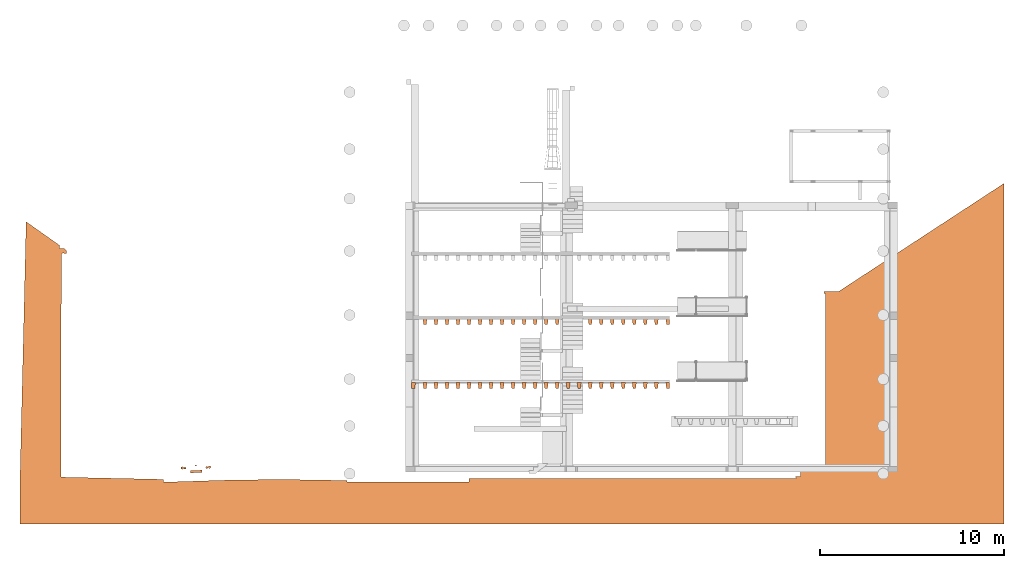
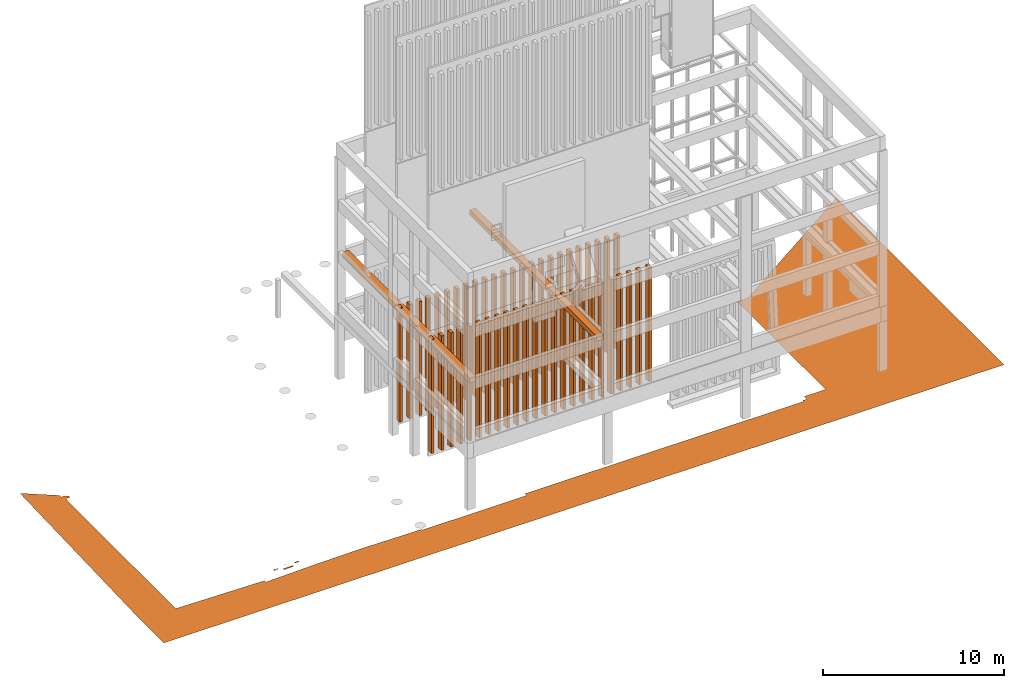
# One storey, part 12 of 15: 3 proxies.
"""IFC2X3 building model written with IfcOpenShell, lengths in metres."""

from ifc_helpers import new_model, entity, si_unit, converted_unit, derived_unit, money_unit, direction, frame, origin_with_axes, place, context, subcontext, project, spatial, open_shell, faceted_brep, surface_model, element, save


model = new_model("IFC2X3")

# Units and contexts
model_context = context("Model", 3, precision=1e-05, world=origin_with_axes(), true_north=direction((0.0, 1.0)))
body_context = subcontext(model_context, "Body", "Model", "MODEL_VIEW", scale=1.0)
ifc_project = project(units=[si_unit("LENGTHUNIT", "METRE"), si_unit("AREAUNIT", "SQUARE_METRE"), si_unit("VOLUMEUNIT", "CUBIC_METRE"), si_unit("ABSORBEDDOSEUNIT", "GRAY"), si_unit("AMOUNTOFSUBSTANCEUNIT", "MOLE"), si_unit("DOSEEQUIVALENTUNIT", "SIEVERT"), si_unit("ELECTRICCAPACITANCEUNIT", "FARAD"), si_unit("ELECTRICCHARGEUNIT", "COULOMB"), si_unit("ELECTRICCONDUCTANCEUNIT", "SIEMENS"), si_unit("ELECTRICCURRENTUNIT", "AMPERE"), si_unit("ELECTRICRESISTANCEUNIT", "OHM"), si_unit("ELECTRICVOLTAGEUNIT", "VOLT"), si_unit("ENERGYUNIT", "JOULE"), si_unit("FORCEUNIT", "NEWTON"), si_unit("FREQUENCYUNIT", "HERTZ"), si_unit("ILLUMINANCEUNIT", "LUX"), si_unit("INDUCTANCEUNIT", "HENRY"), si_unit("LUMINOUSFLUXUNIT", "LUMEN"), si_unit("LUMINOUSINTENSITYUNIT", "CANDELA"), si_unit("MAGNETICFLUXDENSITYUNIT", "TESLA"), si_unit("MAGNETICFLUXUNIT", "WEBER"), si_unit("MASSUNIT", "GRAM"), converted_unit("PLANEANGLEUNIT", "degree", entity("IfcReal", 0.0174532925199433), si_unit("PLANEANGLEUNIT", "RADIAN"), dimensions=[0, 0, 0, 0, 0, 0, 0]), si_unit("POWERUNIT", "WATT"), si_unit("PRESSUREUNIT", "PASCAL"), si_unit("RADIOACTIVITYUNIT", "BECQUEREL"), si_unit("SOLIDANGLEUNIT", "STERADIAN"), si_unit("THERMODYNAMICTEMPERATUREUNIT", "KELVIN"), si_unit("TIMEUNIT", "SECOND"), derived_unit("ACCELERATIONUNIT", [(si_unit("LENGTHUNIT", "METRE"), 1), (si_unit("TIMEUNIT", "SECOND"), -2)]), derived_unit("ANGULARVELOCITYUNIT", [(converted_unit("PLANEANGLEUNIT", "degree", entity("IfcReal", 0.0174532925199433), si_unit("PLANEANGLEUNIT", "RADIAN"), dimensions=[0, 0, 0, 0, 0, 0, 0]), 1), (si_unit("TIMEUNIT", "SECOND"), -1)]), derived_unit("CURVATUREUNIT", [(converted_unit("PLANEANGLEUNIT", "degree", entity("IfcReal", 0.0174532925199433), si_unit("PLANEANGLEUNIT", "RADIAN"), dimensions=[0, 0, 0, 0, 0, 0, 0]), 1), (si_unit("LENGTHUNIT", "METRE"), -1)]), derived_unit("DYNAMICVISCOSITYUNIT", [(si_unit("PRESSUREUNIT", "PASCAL"), 1), (si_unit("TIMEUNIT", "SECOND"), 1)]), derived_unit("HEATFLUXDENSITYUNIT", [(si_unit("POWERUNIT", "WATT"), 1), (si_unit("LENGTHUNIT", "METRE"), -2)]), derived_unit("HEATINGVALUEUNIT", [(si_unit("ENERGYUNIT", "JOULE"), 1), (si_unit("MASSUNIT", "GRAM"), -1)]), derived_unit("INTEGERCOUNTRATEUNIT", [(si_unit("TIMEUNIT", "SECOND"), -1)]), derived_unit("IONCONCENTRATIONUNIT", [(si_unit("MASSUNIT", "GRAM"), 1), (si_unit("VOLUMEUNIT", "CUBIC_METRE"), -1)]), derived_unit("ISOTHERMALMOISTURECAPACITYUNIT", [(si_unit("VOLUMEUNIT", "CUBIC_METRE"), 1), (si_unit("MASSUNIT", "GRAM"), -1)]), derived_unit("KINEMATICVISCOSITYUNIT", [(si_unit("AREAUNIT", "SQUARE_METRE"), 1), (si_unit("TIMEUNIT", "SECOND"), -1)]), derived_unit("LINEARFORCEUNIT", [(si_unit("FORCEUNIT", "NEWTON"), 1), (si_unit("LENGTHUNIT", "METRE"), -1)]), derived_unit("LINEARMOMENTUNIT", [(si_unit("FORCEUNIT", "NEWTON"), 1), (si_unit("LENGTHUNIT", "METRE"), -1)]), derived_unit("LINEARSTIFFNESSUNIT", [(si_unit("FORCEUNIT", "NEWTON"), 1), (si_unit("LENGTHUNIT", "METRE"), -1)]), derived_unit("LINEARVELOCITYUNIT", [(si_unit("LENGTHUNIT", "METRE"), 1), (si_unit("TIMEUNIT", "SECOND"), -1)]), derived_unit("LUMINOUSINTENSITYDISTRIBUTIONUNIT", [(si_unit("LUMINOUSINTENSITYUNIT", "CANDELA"), 1), (si_unit("LUMINOUSFLUXUNIT", "LUMEN"), -1)]), derived_unit("MASSDENSITYUNIT", [(si_unit("MASSUNIT", "GRAM"), 1), (si_unit("VOLUMEUNIT", "CUBIC_METRE"), -1)]), derived_unit("MASSFLOWRATEUNIT", [(si_unit("MASSUNIT", "GRAM"), 1), (si_unit("TIMEUNIT", "SECOND"), -1)]), derived_unit("MASSPERLENGTHUNIT", [(si_unit("MASSUNIT", "GRAM"), 1), (si_unit("LENGTHUNIT", "METRE"), -1)]), derived_unit("MODULUSOFELASTICITYUNIT", [(si_unit("FORCEUNIT", "NEWTON"), 1), (si_unit("AREAUNIT", "SQUARE_METRE"), -1)]), derived_unit("MODULUSOFLINEARSUBGRADEREACTIONUNIT", [(si_unit("FORCEUNIT", "NEWTON"), 1), (si_unit("LENGTHUNIT", "METRE"), -2)]), derived_unit("MODULUSOFROTATIONALSUBGRADEREACTIONUNIT", [(si_unit("FORCEUNIT", "NEWTON"), 1), (si_unit("LENGTHUNIT", "METRE"), 1)]), derived_unit("MODULUSOFSUBGRADEREACTIONUNIT", [(si_unit("FORCEUNIT", "NEWTON"), 1), (si_unit("VOLUMEUNIT", "CUBIC_METRE"), -1)]), derived_unit("MOISTUREDIFFUSIVITYUNIT", [(si_unit("VOLUMEUNIT", "CUBIC_METRE"), 1), (si_unit("TIMEUNIT", "SECOND"), -1)]), derived_unit("MOLECULARWEIGHTUNIT", [(si_unit("MASSUNIT", "GRAM"), 1), (si_unit("AMOUNTOFSUBSTANCEUNIT", "MOLE"), -1)]), derived_unit("PLANARFORCEUNIT", [(si_unit("FORCEUNIT", "NEWTON"), 1), (si_unit("LENGTHUNIT", "METRE"), -2)]), derived_unit("ROTATIONALFREQUENCYUNIT", [(si_unit("TIMEUNIT", "SECOND"), -1)]), derived_unit("ROTATIONALMASSUNIT", [(si_unit("MASSUNIT", "GRAM"), 1), (si_unit("LENGTHUNIT", "METRE"), 2)]), derived_unit("ROTATIONALSTIFFNESSUNIT", [(si_unit("FORCEUNIT", "NEWTON"), 1), (si_unit("LENGTHUNIT", "METRE"), 1), (converted_unit("PLANEANGLEUNIT", "degree", entity("IfcReal", 0.0174532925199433), si_unit("PLANEANGLEUNIT", "RADIAN"), dimensions=[0, 0, 0, 0, 0, 0, 0]), -1)]), derived_unit("SECTIONAREAINTEGRALUNIT", [(si_unit("LENGTHUNIT", "METRE"), 5)]), derived_unit("SECTIONMODULUSUNIT", [(si_unit("LENGTHUNIT", "METRE"), 3)]), derived_unit("SHEARMODULUSUNIT", [(si_unit("FORCEUNIT", "NEWTON"), 1), (si_unit("AREAUNIT", "SQUARE_METRE"), -1)]), derived_unit("SOUNDPOWERUNIT", [(si_unit("ENERGYUNIT", "JOULE"), 1), (si_unit("TIMEUNIT", "SECOND"), -1)]), derived_unit("SPECIFICHEATCAPACITYUNIT", [(si_unit("FORCEUNIT", "NEWTON"), 1), (si_unit("MASSUNIT", "GRAM"), -1), (si_unit("THERMODYNAMICTEMPERATUREUNIT", "KELVIN"), -1)]), derived_unit("TEMPERATUREGRADIENTUNIT", [(si_unit("THERMODYNAMICTEMPERATUREUNIT", "KELVIN"), 1), (si_unit("LENGTHUNIT", "METRE"), -1)]), derived_unit("THERMALADMITTANCEUNIT", [(si_unit("POWERUNIT", "WATT"), 1), (si_unit("AREAUNIT", "SQUARE_METRE"), -1), (si_unit("THERMODYNAMICTEMPERATUREUNIT", "KELVIN"), -1)]), derived_unit("THERMALCONDUCTANCEUNIT", [(si_unit("POWERUNIT", "WATT"), 1), (si_unit("LENGTHUNIT", "METRE"), -1), (si_unit("THERMODYNAMICTEMPERATUREUNIT", "KELVIN"), -1)]), derived_unit("THERMALEXPANSIONCOEFFICIENTUNIT", [(si_unit("THERMODYNAMICTEMPERATUREUNIT", "KELVIN"), -1)]), derived_unit("THERMALRESISTANCEUNIT", [(si_unit("AREAUNIT", "SQUARE_METRE"), 1), (si_unit("POWERUNIT", "WATT"), -1)]), derived_unit("THERMALTRANSMITTANCEUNIT", [(si_unit("POWERUNIT", "WATT"), 1), (si_unit("AREAUNIT", "SQUARE_METRE"), -1), (si_unit("THERMODYNAMICTEMPERATUREUNIT", "KELVIN"), -1)]), derived_unit("TORQUEUNIT", [(si_unit("FORCEUNIT", "NEWTON"), 1), (si_unit("LENGTHUNIT", "METRE"), 1)]), derived_unit("VAPORPERMEABILITYUNIT", [(si_unit("MASSUNIT", "GRAM"), 1), (si_unit("TIMEUNIT", "SECOND"), -1)]), derived_unit("VOLUMETRICFLOWRATEUNIT", [(si_unit("VOLUMEUNIT", "CUBIC_METRE"), 1), (si_unit("TIMEUNIT", "SECOND"), -1)]), derived_unit("WARPINGCONSTANTUNIT", [(si_unit("LENGTHUNIT", "METRE"), 6)]), derived_unit("WARPINGMOMENTUNIT", [(si_unit("FORCEUNIT", "NEWTON"), 1), (si_unit("LENGTHUNIT", "METRE"), 2)]), money_unit("GBP")], contexts=[model_context])

# Site, building, storey
site_placement = place(None, origin_with_axes())
site = spatial("IfcSite", under=ifc_project, at=site_placement, Name="Site", CompositionType="ELEMENT")
building_placement = place(site_placement, origin_with_axes())
building = spatial("IfcBuilding", under=site, at=building_placement, Name="Building01", CompositionType="ELEMENT")
storey_placement = place(building_placement, origin_with_axes())
storey = spatial("IfcBuildingStorey", under=building, at=storey_placement, Name="GF", CompositionType="ELEMENT", Elevation=0.0)

# Proxies
proxy_1_placement = place(storey_placement, frame((6.295265, 6.775269, 0.0), z_axis=(0.0, 0.0, 1.0), x_axis=(1.0, 0.0, 0.0)))
element("IfcBuildingElementProxy", 1, at=proxy_1_placement, inside=storey, context=body_context, shape_type="SurfaceModel", body=[
    surface_model("IfcShellBasedSurfaceModel", [(-9.384389, -7.220269, 0.0), (-2.736119, -7.220269, 0.0), (-2.735932, -7.027269, 0.0), (-2.736011, -7.027269, 0.0), (6.158579, -7.027269, 0.0), (15.053168, -7.027269, 0.0), (15.042496, -6.920269, 0.0), (15.317986, -6.920269, 0.0), (15.317986, -6.627269, 0.0), (16.667986, -6.627269, 0.0), (16.667986, 2.472732, 0.0), (16.667986, 3.050256, 0.0), (16.597704, 3.050256, 0.0), (16.597704, 3.138353, 0.0), (17.368059, 3.138353, 0.0), (26.392331, 9.036535, 0.0), (26.392331, -9.500924, 0.0), (-27.203092, -9.500924, 0.0), (-27.203092, -7.157924, 0.0), (-26.868161, 6.947285, 0.0), (-25.062395, 5.672285, 0.0), (-25.063699, 5.497285, 0.0), (-24.812561, 5.497974, 0.0), (-24.666033, 5.362285, 0.0), (-24.665296, 5.222285, 0.0), (-24.879935, 5.237285, 0.0), (-24.953249, 5.157285, 0.0), (-24.967124, -6.962976, 0.0), (-19.384061, -7.084757, 0.0), (-19.382847, -7.23741, 0.0), (-16.044539, -7.130372, 0.0), (-13.692327, -7.096132, 0.0), (-12.934311, -7.088553, 0.0), (-11.352533, -7.113553, 0.0), (-9.385255, -7.145523, 0.0), (-9.384389, -7.157924, 0.0), (-17.643515, -6.3046, 0.0), (-17.657405, -6.311271, 0.0), (-17.665073, -6.320519, 0.0), (-17.666045, -6.32594, 0.0), (-17.625325, -6.324558, 0.0), (-17.626098, -6.301799, 0.0), (-17.607136, -6.344515, 0.0), (-17.593246, -6.337844, 0.0), (-17.585578, -6.328596, 0.0), (-17.584606, -6.323176, 0.0), (-17.624553, -6.347316, 0.0), (-17.661765, -6.335582, 0.0), (-17.650417, -6.343086, 0.0), (-17.634203, -6.346997, 0.0), (-17.616268, -6.346556, 0.0), (-17.600089, -6.341848, 0.0), (-17.588804, -6.333787, 0.0), (-17.584602, -6.323936, 0.0), (-17.588299, -6.314206, 0.0), (-17.599176, -6.306483, 0.0), (-17.615125, -6.302265, 0.0), (-17.633052, -6.302371, 0.0), (-17.649481, -6.30678, 0.0), (-17.661224, -6.314636, 0.0), (-17.666006, -6.324417, 0.0), (-16.993731, -6.413525, 0.0), (-17.003932, -6.400441, 0.0), (-17.018573, -6.392638, 0.0), (-17.035122, -6.391465, 0.0), (-17.050717, -6.397124, 0.0), (-17.062662, -6.408636, 0.0), (-17.068892, -6.424013, 0.0), (-17.06833, -6.440594, 0.0), (-17.061072, -6.455512, 0.0), (-17.048373, -6.466189, 0.0), (-17.03243, -6.470777, 0.0), (-17.015999, -6.468484, 0.0), (-17.001921, -6.459707, 0.0), (-16.99263, -6.445962, 0.0), (-16.989733, -6.429626, 0.0), (-16.974725, -6.408868, 0.0), (-16.985597, -6.39143, 0.0), (-17.001778, -6.378763, 0.0), (-17.021315, -6.372393, 0.0), (-17.041853, -6.373091, 0.0), (-17.060914, -6.38077, 0.0), (-17.076198, -6.394505, 0.0), (-17.085864, -6.41264, 0.0), (-17.088743, -6.432986, 0.0), (-17.084491, -6.453091, 0.0), (-17.073618, -6.470529, 0.0), (-17.057437, -6.483196, 0.0), (-17.0379, -6.489565, 0.0), (-17.017362, -6.488868, 0.0), (-16.998302, -6.481189, 0.0), (-16.983017, -6.467454, 0.0), (-16.973352, -6.449319, 0.0), (-16.970472, -6.428972, 0.0), (-16.838745, -6.39588, 0.0), (-16.849571, -6.381996, 0.0), (-16.865107, -6.373715, 0.0), (-16.882669, -6.37247, 0.0), (-16.899219, -6.378475, 0.0), (-16.911895, -6.390692, 0.0), (-16.918506, -6.40701, 0.0), (-16.917909, -6.424605, 0.0), (-16.910207, -6.440437, 0.0), (-16.896731, -6.451767, 0.0), (-16.879812, -6.456636, 0.0), (-16.862376, -6.454203, 0.0), (-16.847436, -6.444888, 0.0), (-16.837577, -6.430302, 0.0), (-16.834503, -6.412967, 0.0), (-16.811549, -6.38949, 0.0), (-16.823174, -6.369648, 0.0), (-16.840613, -6.354655, 0.0), (-16.861975, -6.346136, 0.0), (-16.884945, -6.345016, 0.0), (-16.907035, -6.351414, 0.0), (-16.92585, -6.364638, 0.0), (-16.939351, -6.383255, 0.0), (-16.946077, -6.405248, 0.0), (-16.945297, -6.428232, 0.0), (-16.937096, -6.449718, 0.0), (-16.922363, -6.467377, 0.0), (-16.902694, -6.479295, 0.0), (-16.880222, -6.484181, 0.0), (-16.85738, -6.481506, 0.0), (-16.836645, -6.471559, 0.0), (-16.820263, -6.455418, 0.0), (-16.81001, -6.434832, 0.0), (-16.806996, -6.412033, 0.0), (-18.17658, -6.453669, 0.0), (-18.186781, -6.440586, 0.0), (-18.201422, -6.432783, 0.0), (-18.217971, -6.431609, 0.0), (-18.233566, -6.437268, 0.0), (-18.245512, -6.448781, 0.0), (-18.251742, -6.464158, 0.0), (-18.251179, -6.480738, 0.0), (-18.243921, -6.495657, 0.0), (-18.231222, -6.506333, 0.0), (-18.215279, -6.510922, 0.0), (-18.198848, -6.508629, 0.0), (-18.18477, -6.499851, 0.0), (-18.175479, -6.486106, 0.0), (-18.172582, -6.469771, 0.0), (-18.157574, -6.449013, 0.0), (-18.168446, -6.431575, 0.0), (-18.184627, -6.418908, 0.0), (-18.204165, -6.412538, 0.0), (-18.224702, -6.413235, 0.0), (-18.243763, -6.420915, 0.0), (-18.259048, -6.43465, 0.0), (-18.268713, -6.452785, 0.0), (-18.271593, -6.473131, 0.0), (-18.26734, -6.493236, 0.0), (-18.256468, -6.510674, 0.0), (-18.240287, -6.523341, 0.0), (-18.220749, -6.52971, 0.0), (-18.200212, -6.529013, 0.0), (-18.181151, -6.521334, 0.0), (-18.165866, -6.507599, 0.0), (-18.156201, -6.489464, 0.0), (-18.153321, -6.469117, 0.0), (-18.327947, -6.446422, 0.0), (-18.338772, -6.432538, 0.0), (-18.354309, -6.424257, 0.0), (-18.371871, -6.423012, 0.0), (-18.388421, -6.429017, 0.0), (-18.401097, -6.441235, 0.0), (-18.407708, -6.457552, 0.0), (-18.407111, -6.475147, 0.0), (-18.399409, -6.490979, 0.0), (-18.385933, -6.502309, 0.0), (-18.369014, -6.507178, 0.0), (-18.351578, -6.504745, 0.0), (-18.336638, -6.49543, 0.0), (-18.326779, -6.480844, 0.0), (-18.323705, -6.463509, 0.0), (-18.300751, -6.440033, 0.0), (-18.312376, -6.42019, 0.0), (-18.329815, -6.405197, 0.0), (-18.351177, -6.396678, 0.0), (-18.374147, -6.395558, 0.0), (-18.396236, -6.401956, 0.0), (-18.415052, -6.415181, 0.0), (-18.428553, -6.433798, 0.0), (-18.435279, -6.45579, 0.0), (-18.434499, -6.478774, 0.0), (-18.426298, -6.50026, 0.0), (-18.411565, -6.517919, 0.0), (-18.391896, -6.529837, 0.0), (-18.369424, -6.534723, 0.0), (-18.346582, -6.532048, 0.0), (-18.325847, -6.522101, 0.0), (-18.309465, -6.50596, 0.0), (-18.299212, -6.485375, 0.0), (-18.296198, -6.462575, 0.0), (-17.918557, -6.728555, 0.0), (-17.29906, -6.707529, 0.0), (-17.303283, -6.583092, 0.0), (-17.922781, -6.604118, 0.0)], [open_shell([[[0, 1, 2, 3, 2, 4, 5, 6, 7, 8, 9, 10, 11, 12, 13, 14, 15, 16, 17, 18, 19, 20, 21, 22, 23, 24, 25, 26, 27, 28, 29, 30, 31, 32, 33, 34, 35]], [[36, 37, 38, 39, 40, 41]], [[42, 43, 44, 45, 40, 46]], [[47, 48, 49, 50, 51, 52, 53, 54, 55, 56, 57, 58, 59, 60, 39]], [[61, 62, 63, 64, 65, 66, 67, 68, 69, 70, 71, 72, 73, 74, 75]], [[76, 77, 78, 79, 80, 81, 82, 83, 84, 85, 86, 87, 88, 89, 90, 91, 92, 93]], [[94, 95, 96, 97, 98, 99, 100, 101, 102, 103, 104, 105, 106, 107, 108]], [[109, 110, 111, 112, 113, 114, 115, 116, 117, 118, 119, 120, 121, 122, 123, 124, 125, 126, 127]], [[128, 129, 130, 131, 132, 133, 134, 135, 136, 137, 138, 139, 140, 141, 142]], [[143, 144, 145, 146, 147, 148, 149, 150, 151, 152, 153, 154, 155, 156, 157, 158, 159, 160]], [[161, 162, 163, 164, 165, 166, 167, 168, 169, 170, 171, 172, 173, 174, 175]], [[176, 177, 178, 179, 180, 181, 182, 183, 184, 185, 186, 187, 188, 189, 190, 191, 192, 193, 194]], [[195, 196, 197, 198]]])]),
])
proxy_2_placement = place(storey_placement, frame((7.45, 8.3, 4.6725), z_axis=(0.0, 1.0, 0.0), x_axis=(0.0, 0.0, 1.0)))
element("IfcBuildingElementProxy", 2, at=proxy_2_placement, inside=storey, context=body_context, shape_type="Brep", body=[
    faceted_brep([(3.4575, -6.63, 6.18), (3.4575, -6.63, -7.88), (3.4575, -7.03, -7.88), (3.4575, -7.03, 6.18), (3.7975, -6.63, 6.18), (3.7975, -6.63, -7.88), (3.7975, -7.03, 6.18), (3.7975, -7.03, -7.88)], [[[0, 1, 2, 3]], [[4, 5, 1, 0]], [[6, 7, 5, 4]], [[3, 2, 7, 6]], [[1, 5, 7, 2]], [[3, 6, 4, 0]]]),
    faceted_brep([(-3.8525, -7.03, -0.17), (3.8525, -7.03, -0.17), (3.8525, -7.03, 0.17), (-3.8525, -7.03, 0.17), (-3.8525, -6.858571, -0.17), (3.8525, -6.858571, -0.17), (-3.8525, -6.81, 0.17), (3.8525, -6.81, 0.17)], [[[0, 1, 2, 3]], [[4, 5, 1, 0]], [[6, 7, 5, 4]], [[3, 2, 7, 6]], [[1, 5, 7, 2]], [[3, 6, 4, 0]]]),
    faceted_brep([(-3.8525, 7.03, 0.17), (3.8525, 7.03, 0.17), (3.8525, 7.03, -0.17), (-3.8525, 7.03, -0.17), (-3.8525, 6.81, 0.17), (3.8525, 6.81, 0.17), (-3.8525, 6.858572, -0.17), (3.8525, 6.858572, -0.17)], [[[0, 1, 2, 3]], [[4, 5, 1, 0]], [[6, 7, 5, 4]], [[3, 2, 7, 6]], [[1, 5, 7, 2]], [[3, 6, 4, 0]]]),
    faceted_brep([(-3.8525, 5.028572, -0.17), (3.8525, 5.028572, -0.17), (3.8525, 4.98, 0.17), (-3.8525, 4.98, 0.17), (-3.8525, 5.171429, -0.17), (3.8525, 5.171429, -0.17), (-3.8525, 5.22, 0.17), (3.8525, 5.22, 0.17)], [[[0, 1, 2, 3]], [[4, 5, 1, 0]], [[6, 7, 5, 4]], [[3, 2, 7, 6]], [[1, 5, 7, 2]], [[3, 6, 4, 0]]]),
    faceted_brep([(-3.8525, 4.428572, -0.17), (3.8525, 4.428572, -0.17), (3.8525, 4.38, 0.17), (-3.8525, 4.38, 0.17), (-3.8525, 4.571429, -0.17), (3.8525, 4.571429, -0.17), (-3.8525, 4.62, 0.17), (3.8525, 4.62, 0.17)], [[[0, 1, 2, 3]], [[4, 5, 1, 0]], [[6, 7, 5, 4]], [[3, 2, 7, 6]], [[1, 5, 7, 2]], [[3, 6, 4, 0]]]),
    faceted_brep([(-3.8525, 6.228572, -0.17), (3.8525, 6.228572, -0.17), (3.8525, 6.18, 0.17), (-3.8525, 6.18, 0.17), (-3.8525, 6.371429, -0.17), (3.8525, 6.371429, -0.17), (-3.8525, 6.42, 0.17), (3.8525, 6.42, 0.17)], [[[0, 1, 2, 3]], [[4, 5, 1, 0]], [[6, 7, 5, 4]], [[3, 2, 7, 6]], [[1, 5, 7, 2]], [[3, 6, 4, 0]]]),
    faceted_brep([(-3.8525, 5.628572, -0.17), (3.8525, 5.628572, -0.17), (3.8525, 5.58, 0.17), (-3.8525, 5.58, 0.17), (-3.8525, 5.771429, -0.17), (3.8525, 5.771429, -0.17), (-3.8525, 5.82, 0.17), (3.8525, 5.82, 0.17)], [[[0, 1, 2, 3]], [[4, 5, 1, 0]], [[6, 7, 5, 4]], [[3, 2, 7, 6]], [[1, 5, 7, 2]], [[3, 6, 4, 0]]]),
    faceted_brep([(-3.8525, 3.228572, -0.17), (3.8525, 3.228572, -0.17), (3.8525, 3.18, 0.17), (-3.8525, 3.18, 0.17), (-3.8525, 3.371429, -0.17), (3.8525, 3.371429, -0.17), (-3.8525, 3.42, 0.17), (3.8525, 3.42, 0.17)], [[[0, 1, 2, 3]], [[4, 5, 1, 0]], [[6, 7, 5, 4]], [[3, 2, 7, 6]], [[1, 5, 7, 2]], [[3, 6, 4, 0]]]),
    faceted_brep([(-3.8525, 2.628572, -0.17), (3.8525, 2.628572, -0.17), (3.8525, 2.58, 0.17), (-3.8525, 2.58, 0.17), (-3.8525, 2.771429, -0.17), (3.8525, 2.771429, -0.17), (-3.8525, 2.82, 0.17), (3.8525, 2.82, 0.17)], [[[0, 1, 2, 3]], [[4, 5, 1, 0]], [[6, 7, 5, 4]], [[3, 2, 7, 6]], [[1, 5, 7, 2]], [[3, 6, 4, 0]]]),
    faceted_brep([(-3.8525, 3.828572, -0.17), (3.8525, 3.828572, -0.17), (3.8525, 3.78, 0.17), (-3.8525, 3.78, 0.17), (-3.8525, 3.971429, -0.17), (3.8525, 3.971429, -0.17), (-3.8525, 4.02, 0.17), (3.8525, 4.02, 0.17)], [[[0, 1, 2, 3]], [[4, 5, 1, 0]], [[6, 7, 5, 4]], [[3, 2, 7, 6]], [[1, 5, 7, 2]], [[3, 6, 4, 0]]]),
    faceted_brep([(-3.8525, 1.428572, -0.17), (3.8525, 1.428572, -0.17), (3.8525, 1.38, 0.17), (-3.8525, 1.38, 0.17), (-3.8525, 1.571429, -0.17), (3.8525, 1.571429, -0.17), (-3.8525, 1.62, 0.17), (3.8525, 1.62, 0.17)], [[[0, 1, 2, 3]], [[4, 5, 1, 0]], [[6, 7, 5, 4]], [[3, 2, 7, 6]], [[1, 5, 7, 2]], [[3, 6, 4, 0]]]),
    faceted_brep([(-3.8525, 0.828572, -0.17), (3.8525, 0.828572, -0.17), (3.8525, 0.78, 0.17), (-3.8525, 0.78, 0.17), (-3.8525, 0.971429, -0.17), (3.8525, 0.971429, -0.17), (-3.8525, 1.02, 0.17), (3.8525, 1.02, 0.17)], [[[0, 1, 2, 3]], [[4, 5, 1, 0]], [[6, 7, 5, 4]], [[3, 2, 7, 6]], [[1, 5, 7, 2]], [[3, 6, 4, 0]]]),
    faceted_brep([(-3.8525, 2.028572, -0.17), (3.8525, 2.028572, -0.17), (3.8525, 1.98, 0.17), (-3.8525, 1.98, 0.17), (-3.8525, 2.171429, -0.17), (3.8525, 2.171429, -0.17), (-3.8525, 2.22, 0.17), (3.8525, 2.22, 0.17)], [[[0, 1, 2, 3]], [[4, 5, 1, 0]], [[6, 7, 5, 4]], [[3, 2, 7, 6]], [[1, 5, 7, 2]], [[3, 6, 4, 0]]]),
    faceted_brep([(-3.8525, -0.371428, -0.17), (3.8525, -0.371428, -0.17), (3.8525, -0.42, 0.17), (-3.8525, -0.42, 0.17), (-3.8525, -0.228571, -0.17), (3.8525, -0.228571, -0.17), (-3.8525, -0.18, 0.17), (3.8525, -0.18, 0.17)], [[[0, 1, 2, 3]], [[4, 5, 1, 0]], [[6, 7, 5, 4]], [[3, 2, 7, 6]], [[1, 5, 7, 2]], [[3, 6, 4, 0]]]),
    faceted_brep([(-3.8525, -0.971428, -0.17), (3.8525, -0.971428, -0.17), (3.8525, -1.02, 0.17), (-3.8525, -1.02, 0.17), (-3.8525, -0.828571, -0.17), (3.8525, -0.828571, -0.17), (-3.8525, -0.78, 0.17), (3.8525, -0.78, 0.17)], [[[0, 1, 2, 3]], [[4, 5, 1, 0]], [[6, 7, 5, 4]], [[3, 2, 7, 6]], [[1, 5, 7, 2]], [[3, 6, 4, 0]]]),
    faceted_brep([(-3.8525, 0.228572, -0.17), (3.8525, 0.228572, -0.17), (3.8525, 0.18, 0.17), (-3.8525, 0.18, 0.17), (-3.8525, 0.371429, -0.17), (3.8525, 0.371429, -0.17), (-3.8525, 0.42, 0.17), (3.8525, 0.42, 0.17)], [[[0, 1, 2, 3]], [[4, 5, 1, 0]], [[6, 7, 5, 4]], [[3, 2, 7, 6]], [[1, 5, 7, 2]], [[3, 6, 4, 0]]]),
    faceted_brep([(-3.8525, -2.171428, -0.17), (3.8525, -2.171428, -0.17), (3.8525, -2.22, 0.17), (-3.8525, -2.22, 0.17), (-3.8525, -2.028571, -0.17), (3.8525, -2.028571, -0.17), (-3.8525, -1.98, 0.17), (3.8525, -1.98, 0.17)], [[[0, 1, 2, 3]], [[4, 5, 1, 0]], [[6, 7, 5, 4]], [[3, 2, 7, 6]], [[1, 5, 7, 2]], [[3, 6, 4, 0]]]),
    faceted_brep([(-3.8525, -2.771428, -0.17), (3.8525, -2.771428, -0.17), (3.8525, -2.82, 0.17), (-3.8525, -2.82, 0.17), (-3.8525, -2.628571, -0.17), (3.8525, -2.628571, -0.17), (-3.8525, -2.58, 0.17), (3.8525, -2.58, 0.17)], [[[0, 1, 2, 3]], [[4, 5, 1, 0]], [[6, 7, 5, 4]], [[3, 2, 7, 6]], [[1, 5, 7, 2]], [[3, 6, 4, 0]]]),
    faceted_brep([(-3.8525, -1.571428, -0.17), (3.8525, -1.571428, -0.17), (3.8525, -1.62, 0.17), (-3.8525, -1.62, 0.17), (-3.8525, -1.428571, -0.17), (3.8525, -1.428571, -0.17), (-3.8525, -1.38, 0.17), (3.8525, -1.38, 0.17)], [[[0, 1, 2, 3]], [[4, 5, 1, 0]], [[6, 7, 5, 4]], [[3, 2, 7, 6]], [[1, 5, 7, 2]], [[3, 6, 4, 0]]]),
    faceted_brep([(-3.8525, -3.971428, -0.17), (3.8525, -3.971428, -0.17), (3.8525, -4.02, 0.17), (-3.8525, -4.02, 0.17), (-3.8525, -3.828571, -0.17), (3.8525, -3.828571, -0.17), (-3.8525, -3.78, 0.17), (3.8525, -3.78, 0.17)], [[[0, 1, 2, 3]], [[4, 5, 1, 0]], [[6, 7, 5, 4]], [[3, 2, 7, 6]], [[1, 5, 7, 2]], [[3, 6, 4, 0]]]),
    faceted_brep([(-3.8525, -4.571428, -0.17), (3.8525, -4.571428, -0.17), (3.8525, -4.62, 0.17), (-3.8525, -4.62, 0.17), (-3.8525, -4.428571, -0.17), (3.8525, -4.428571, -0.17), (-3.8525, -4.38, 0.17), (3.8525, -4.38, 0.17)], [[[0, 1, 2, 3]], [[4, 5, 1, 0]], [[6, 7, 5, 4]], [[3, 2, 7, 6]], [[1, 5, 7, 2]], [[3, 6, 4, 0]]]),
    faceted_brep([(-3.8525, -3.371428, -0.17), (3.8525, -3.371428, -0.17), (3.8525, -3.42, 0.17), (-3.8525, -3.42, 0.17), (-3.8525, -3.228571, -0.17), (3.8525, -3.228571, -0.17), (-3.8525, -3.18, 0.17), (3.8525, -3.18, 0.17)], [[[0, 1, 2, 3]], [[4, 5, 1, 0]], [[6, 7, 5, 4]], [[3, 2, 7, 6]], [[1, 5, 7, 2]], [[3, 6, 4, 0]]]),
    faceted_brep([(-3.8525, -5.771428, -0.17), (3.8525, -5.771428, -0.17), (3.8525, -5.82, 0.17), (-3.8525, -5.82, 0.17), (-3.8525, -5.628571, -0.17), (3.8525, -5.628571, -0.17), (-3.8525, -5.58, 0.17), (3.8525, -5.58, 0.17)], [[[0, 1, 2, 3]], [[4, 5, 1, 0]], [[6, 7, 5, 4]], [[3, 2, 7, 6]], [[1, 5, 7, 2]], [[3, 6, 4, 0]]]),
    faceted_brep([(-3.8525, -6.371428, -0.17), (3.8525, -6.371428, -0.17), (3.8525, -6.42, 0.17), (-3.8525, -6.42, 0.17), (-3.8525, -6.228571, -0.17), (3.8525, -6.228571, -0.17), (-3.8525, -6.18, 0.17), (3.8525, -6.18, 0.17)], [[[0, 1, 2, 3]], [[4, 5, 1, 0]], [[6, 7, 5, 4]], [[3, 2, 7, 6]], [[1, 5, 7, 2]], [[3, 6, 4, 0]]]),
    faceted_brep([(-3.8525, -5.171428, -0.17), (3.8525, -5.171428, -0.17), (3.8525, -5.22, 0.17), (-3.8525, -5.22, 0.17), (-3.8525, -5.028571, -0.17), (3.8525, -5.028571, -0.17), (-3.8525, -4.98, 0.17), (3.8525, -4.98, 0.17)], [[[0, 1, 2, 3]], [[4, 5, 1, 0]], [[6, 7, 5, 4]], [[3, 2, 7, 6]], [[1, 5, 7, 2]], [[3, 6, 4, 0]]]),
    faceted_brep([(3.4575, 1.475, 6.18), (3.4575, 1.475, -7.88), (3.4575, 1.075, -7.88), (3.4575, 1.075, 6.18), (3.7975, 1.475, 6.18), (3.7975, 1.475, -7.88), (3.7975, 1.075, 6.18), (3.7975, 1.075, -7.88)], [[[0, 1, 2, 3]], [[4, 5, 1, 0]], [[6, 7, 5, 4]], [[3, 2, 7, 6]], [[1, 5, 7, 2]], [[3, 6, 4, 0]]]),
])
proxy_3_placement = place(storey_placement, frame((7.45, 4.81, 4.6725), z_axis=(0.0, 1.0, 0.0), x_axis=(0.0, 0.0, 1.0)))
element("IfcBuildingElementProxy", 3, at=proxy_3_placement, inside=storey, context=body_context, shape_type="Brep", body=[
    faceted_brep([(-3.8525, -7.03, -0.17), (3.8525, -7.03, -0.17), (3.8525, -7.03, 0.17), (-3.8525, -7.03, 0.17), (-3.8525, -6.858571, -0.17), (3.8525, -6.858571, -0.17), (-3.8525, -6.81, 0.17), (3.8525, -6.81, 0.17)], [[[0, 1, 2, 3]], [[4, 5, 1, 0]], [[6, 7, 5, 4]], [[3, 2, 7, 6]], [[1, 5, 7, 2]], [[3, 6, 4, 0]]]),
    faceted_brep([(-3.8525, 7.03, 0.17), (3.8525, 7.03, 0.17), (3.8525, 7.03, -0.17), (-3.8525, 7.03, -0.17), (-3.8525, 6.81, 0.17), (3.8525, 6.81, 0.17), (-3.8525, 6.858572, -0.17), (3.8525, 6.858572, -0.17)], [[[0, 1, 2, 3]], [[4, 5, 1, 0]], [[6, 7, 5, 4]], [[3, 2, 7, 6]], [[1, 5, 7, 2]], [[3, 6, 4, 0]]]),
    faceted_brep([(-3.8525, 5.028572, -0.17), (3.8525, 5.028572, -0.17), (3.8525, 4.98, 0.17), (-3.8525, 4.98, 0.17), (-3.8525, 5.171429, -0.17), (3.8525, 5.171429, -0.17), (-3.8525, 5.22, 0.17), (3.8525, 5.22, 0.17)], [[[0, 1, 2, 3]], [[4, 5, 1, 0]], [[6, 7, 5, 4]], [[3, 2, 7, 6]], [[1, 5, 7, 2]], [[3, 6, 4, 0]]]),
    faceted_brep([(-3.8525, 4.428572, -0.17), (3.8525, 4.428572, -0.17), (3.8525, 4.38, 0.17), (-3.8525, 4.38, 0.17), (-3.8525, 4.571429, -0.17), (3.8525, 4.571429, -0.17), (-3.8525, 4.62, 0.17), (3.8525, 4.62, 0.17)], [[[0, 1, 2, 3]], [[4, 5, 1, 0]], [[6, 7, 5, 4]], [[3, 2, 7, 6]], [[1, 5, 7, 2]], [[3, 6, 4, 0]]]),
    faceted_brep([(-3.8525, 6.228572, -0.17), (3.8525, 6.228572, -0.17), (3.8525, 6.18, 0.17), (-3.8525, 6.18, 0.17), (-3.8525, 6.371429, -0.17), (3.8525, 6.371429, -0.17), (-3.8525, 6.42, 0.17), (3.8525, 6.42, 0.17)], [[[0, 1, 2, 3]], [[4, 5, 1, 0]], [[6, 7, 5, 4]], [[3, 2, 7, 6]], [[1, 5, 7, 2]], [[3, 6, 4, 0]]]),
    faceted_brep([(-3.8525, 5.628572, -0.17), (3.8525, 5.628572, -0.17), (3.8525, 5.58, 0.17), (-3.8525, 5.58, 0.17), (-3.8525, 5.771429, -0.17), (3.8525, 5.771429, -0.17), (-3.8525, 5.82, 0.17), (3.8525, 5.82, 0.17)], [[[0, 1, 2, 3]], [[4, 5, 1, 0]], [[6, 7, 5, 4]], [[3, 2, 7, 6]], [[1, 5, 7, 2]], [[3, 6, 4, 0]]]),
    faceted_brep([(-3.8525, 3.228572, -0.17), (3.8525, 3.228572, -0.17), (3.8525, 3.18, 0.17), (-3.8525, 3.18, 0.17), (-3.8525, 3.371429, -0.17), (3.8525, 3.371429, -0.17), (-3.8525, 3.42, 0.17), (3.8525, 3.42, 0.17)], [[[0, 1, 2, 3]], [[4, 5, 1, 0]], [[6, 7, 5, 4]], [[3, 2, 7, 6]], [[1, 5, 7, 2]], [[3, 6, 4, 0]]]),
    faceted_brep([(-3.8525, 2.628572, -0.17), (3.8525, 2.628572, -0.17), (3.8525, 2.58, 0.17), (-3.8525, 2.58, 0.17), (-3.8525, 2.771429, -0.17), (3.8525, 2.771429, -0.17), (-3.8525, 2.82, 0.17), (3.8525, 2.82, 0.17)], [[[0, 1, 2, 3]], [[4, 5, 1, 0]], [[6, 7, 5, 4]], [[3, 2, 7, 6]], [[1, 5, 7, 2]], [[3, 6, 4, 0]]]),
    faceted_brep([(-3.8525, 3.828572, -0.17), (3.8525, 3.828572, -0.17), (3.8525, 3.78, 0.17), (-3.8525, 3.78, 0.17), (-3.8525, 3.971429, -0.17), (3.8525, 3.971429, -0.17), (-3.8525, 4.02, 0.17), (3.8525, 4.02, 0.17)], [[[0, 1, 2, 3]], [[4, 5, 1, 0]], [[6, 7, 5, 4]], [[3, 2, 7, 6]], [[1, 5, 7, 2]], [[3, 6, 4, 0]]]),
    faceted_brep([(-3.8525, 1.428572, -0.17), (3.8525, 1.428572, -0.17), (3.8525, 1.38, 0.17), (-3.8525, 1.38, 0.17), (-3.8525, 1.571429, -0.17), (3.8525, 1.571429, -0.17), (-3.8525, 1.62, 0.17), (3.8525, 1.62, 0.17)], [[[0, 1, 2, 3]], [[4, 5, 1, 0]], [[6, 7, 5, 4]], [[3, 2, 7, 6]], [[1, 5, 7, 2]], [[3, 6, 4, 0]]]),
    faceted_brep([(-3.8525, 0.828572, -0.17), (3.8525, 0.828572, -0.17), (3.8525, 0.78, 0.17), (-3.8525, 0.78, 0.17), (-3.8525, 0.971429, -0.17), (3.8525, 0.971429, -0.17), (-3.8525, 1.02, 0.17), (3.8525, 1.02, 0.17)], [[[0, 1, 2, 3]], [[4, 5, 1, 0]], [[6, 7, 5, 4]], [[3, 2, 7, 6]], [[1, 5, 7, 2]], [[3, 6, 4, 0]]]),
    faceted_brep([(-3.8525, 2.028572, -0.17), (3.8525, 2.028572, -0.17), (3.8525, 1.98, 0.17), (-3.8525, 1.98, 0.17), (-3.8525, 2.171429, -0.17), (3.8525, 2.171429, -0.17), (-3.8525, 2.22, 0.17), (3.8525, 2.22, 0.17)], [[[0, 1, 2, 3]], [[4, 5, 1, 0]], [[6, 7, 5, 4]], [[3, 2, 7, 6]], [[1, 5, 7, 2]], [[3, 6, 4, 0]]]),
    faceted_brep([(-3.8525, -0.371428, -0.17), (3.8525, -0.371428, -0.17), (3.8525, -0.42, 0.17), (-3.8525, -0.42, 0.17), (-3.8525, -0.228571, -0.17), (3.8525, -0.228571, -0.17), (-3.8525, -0.18, 0.17), (3.8525, -0.18, 0.17)], [[[0, 1, 2, 3]], [[4, 5, 1, 0]], [[6, 7, 5, 4]], [[3, 2, 7, 6]], [[1, 5, 7, 2]], [[3, 6, 4, 0]]]),
    faceted_brep([(-3.8525, -0.971428, -0.17), (3.8525, -0.971428, -0.17), (3.8525, -1.02, 0.17), (-3.8525, -1.02, 0.17), (-3.8525, -0.828571, -0.17), (3.8525, -0.828571, -0.17), (-3.8525, -0.78, 0.17), (3.8525, -0.78, 0.17)], [[[0, 1, 2, 3]], [[4, 5, 1, 0]], [[6, 7, 5, 4]], [[3, 2, 7, 6]], [[1, 5, 7, 2]], [[3, 6, 4, 0]]]),
    faceted_brep([(-3.8525, 0.228572, -0.17), (3.8525, 0.228572, -0.17), (3.8525, 0.18, 0.17), (-3.8525, 0.18, 0.17), (-3.8525, 0.371429, -0.17), (3.8525, 0.371429, -0.17), (-3.8525, 0.42, 0.17), (3.8525, 0.42, 0.17)], [[[0, 1, 2, 3]], [[4, 5, 1, 0]], [[6, 7, 5, 4]], [[3, 2, 7, 6]], [[1, 5, 7, 2]], [[3, 6, 4, 0]]]),
    faceted_brep([(-3.8525, -2.171428, -0.17), (3.8525, -2.171428, -0.17), (3.8525, -2.22, 0.17), (-3.8525, -2.22, 0.17), (-3.8525, -2.028571, -0.17), (3.8525, -2.028571, -0.17), (-3.8525, -1.98, 0.17), (3.8525, -1.98, 0.17)], [[[0, 1, 2, 3]], [[4, 5, 1, 0]], [[6, 7, 5, 4]], [[3, 2, 7, 6]], [[1, 5, 7, 2]], [[3, 6, 4, 0]]]),
    faceted_brep([(-3.8525, -2.771428, -0.17), (3.8525, -2.771428, -0.17), (3.8525, -2.82, 0.17), (-3.8525, -2.82, 0.17), (-3.8525, -2.628571, -0.17), (3.8525, -2.628571, -0.17), (-3.8525, -2.58, 0.17), (3.8525, -2.58, 0.17)], [[[0, 1, 2, 3]], [[4, 5, 1, 0]], [[6, 7, 5, 4]], [[3, 2, 7, 6]], [[1, 5, 7, 2]], [[3, 6, 4, 0]]]),
    faceted_brep([(-3.8525, -1.571428, -0.17), (3.8525, -1.571428, -0.17), (3.8525, -1.62, 0.17), (-3.8525, -1.62, 0.17), (-3.8525, -1.428571, -0.17), (3.8525, -1.428571, -0.17), (-3.8525, -1.38, 0.17), (3.8525, -1.38, 0.17)], [[[0, 1, 2, 3]], [[4, 5, 1, 0]], [[6, 7, 5, 4]], [[3, 2, 7, 6]], [[1, 5, 7, 2]], [[3, 6, 4, 0]]]),
    faceted_brep([(-3.8525, -3.971428, -0.17), (3.8525, -3.971428, -0.17), (3.8525, -4.02, 0.17), (-3.8525, -4.02, 0.17), (-3.8525, -3.828571, -0.17), (3.8525, -3.828571, -0.17), (-3.8525, -3.78, 0.17), (3.8525, -3.78, 0.17)], [[[0, 1, 2, 3]], [[4, 5, 1, 0]], [[6, 7, 5, 4]], [[3, 2, 7, 6]], [[1, 5, 7, 2]], [[3, 6, 4, 0]]]),
    faceted_brep([(-3.8525, -4.571428, -0.17), (3.8525, -4.571428, -0.17), (3.8525, -4.62, 0.17), (-3.8525, -4.62, 0.17), (-3.8525, -4.428571, -0.17), (3.8525, -4.428571, -0.17), (-3.8525, -4.38, 0.17), (3.8525, -4.38, 0.17)], [[[0, 1, 2, 3]], [[4, 5, 1, 0]], [[6, 7, 5, 4]], [[3, 2, 7, 6]], [[1, 5, 7, 2]], [[3, 6, 4, 0]]]),
    faceted_brep([(-3.8525, -3.371428, -0.17), (3.8525, -3.371428, -0.17), (3.8525, -3.42, 0.17), (-3.8525, -3.42, 0.17), (-3.8525, -3.228571, -0.17), (3.8525, -3.228571, -0.17), (-3.8525, -3.18, 0.17), (3.8525, -3.18, 0.17)], [[[0, 1, 2, 3]], [[4, 5, 1, 0]], [[6, 7, 5, 4]], [[3, 2, 7, 6]], [[1, 5, 7, 2]], [[3, 6, 4, 0]]]),
    faceted_brep([(-3.8525, -5.771428, -0.17), (3.8525, -5.771428, -0.17), (3.8525, -5.82, 0.17), (-3.8525, -5.82, 0.17), (-3.8525, -5.628571, -0.17), (3.8525, -5.628571, -0.17), (-3.8525, -5.58, 0.17), (3.8525, -5.58, 0.17)], [[[0, 1, 2, 3]], [[4, 5, 1, 0]], [[6, 7, 5, 4]], [[3, 2, 7, 6]], [[1, 5, 7, 2]], [[3, 6, 4, 0]]]),
    faceted_brep([(-3.8525, -6.371428, -0.17), (3.8525, -6.371428, -0.17), (3.8525, -6.42, 0.17), (-3.8525, -6.42, 0.17), (-3.8525, -6.228571, -0.17), (3.8525, -6.228571, -0.17), (-3.8525, -6.18, 0.17), (3.8525, -6.18, 0.17)], [[[0, 1, 2, 3]], [[4, 5, 1, 0]], [[6, 7, 5, 4]], [[3, 2, 7, 6]], [[1, 5, 7, 2]], [[3, 6, 4, 0]]]),
    faceted_brep([(-3.8525, -5.171428, -0.17), (3.8525, -5.171428, -0.17), (3.8525, -5.22, 0.17), (-3.8525, -5.22, 0.17), (-3.8525, -5.028571, -0.17), (3.8525, -5.028571, -0.17), (-3.8525, -4.98, 0.17), (3.8525, -4.98, 0.17)], [[[0, 1, 2, 3]], [[4, 5, 1, 0]], [[6, 7, 5, 4]], [[3, 2, 7, 6]], [[1, 5, 7, 2]], [[3, 6, 4, 0]]]),
])

save(model, "model.ifc")
